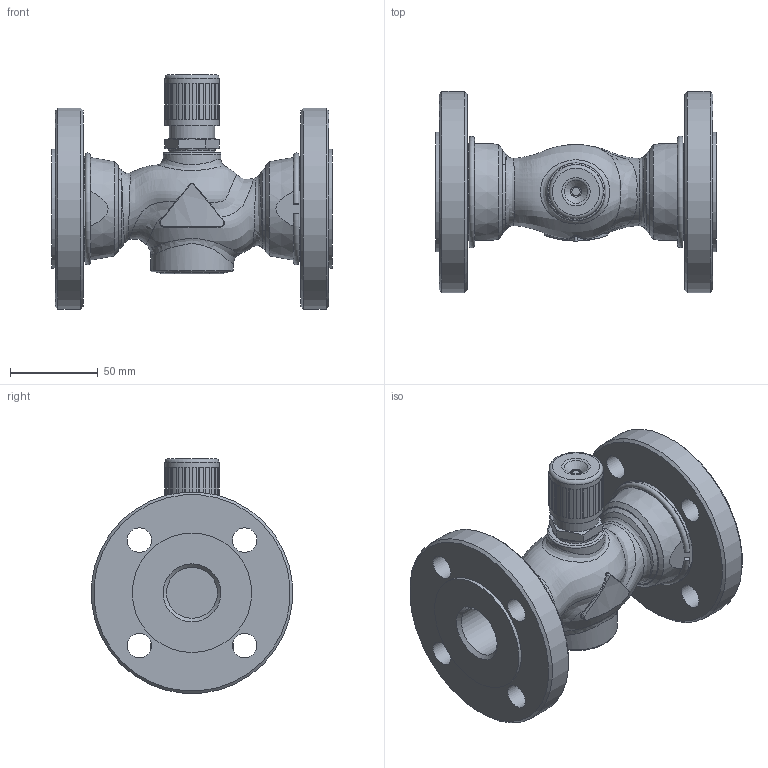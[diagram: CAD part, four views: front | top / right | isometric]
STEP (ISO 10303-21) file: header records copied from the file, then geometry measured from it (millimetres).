
FILE_DESCRIPTION(/* description */ (''),/* implementation_level */ '2;1');
FILE_NAME(/* name */ 'rv111r_dn25_2_F.stp',/* time_stamp */ '2012-02-21T13:11:29+01:00',/* author */ ('KLIMES'),/* organization */ ('LDM'),/* preprocessor_version */ 'ST-DEVELOPER v11',/* originating_system */ 'SIEMENS PLM Software NX 7.0',/* authorisation */ '');
FILE_SCHEMA (('CONFIG_CONTROL_DESIGN'));
Length unit declared in the file: millimetre
Products named in the file (1): klim56BEqbn2
Bounding box: 160 x 114.56 x 133.73 mm (x, y, z)
Volume: 597916.9 mm3; surface area: 106950.5 mm2
Topology: 6 solids, 6 shells, 294 faces, 673 edges, 430 vertices
Faces by surface type: plane 141, cone 65, cylinder 41, bspline 25, torus 22
Full cylindrical faces by diameter (mm): 8 x1, 14 x8, 23.4 x1, 24.117 x1, 26 x1, 26.5 x1, 29 x2, 30.8 x1, 33 x1, 40 x1, 44.845 x2, 47 x1, 47.8 x2, 48 x2, 68 x2, 115 x2
Entity records: 13572 total; most frequent: CARTESIAN_POINT 7356, DIRECTION 1266, ORIENTED_EDGE 1140, EDGE_CURVE 570, AXIS2_PLACEMENT_3D 521, EDGE_LOOP 428, VERTEX_POINT 402, ADVANCED_FACE 294
